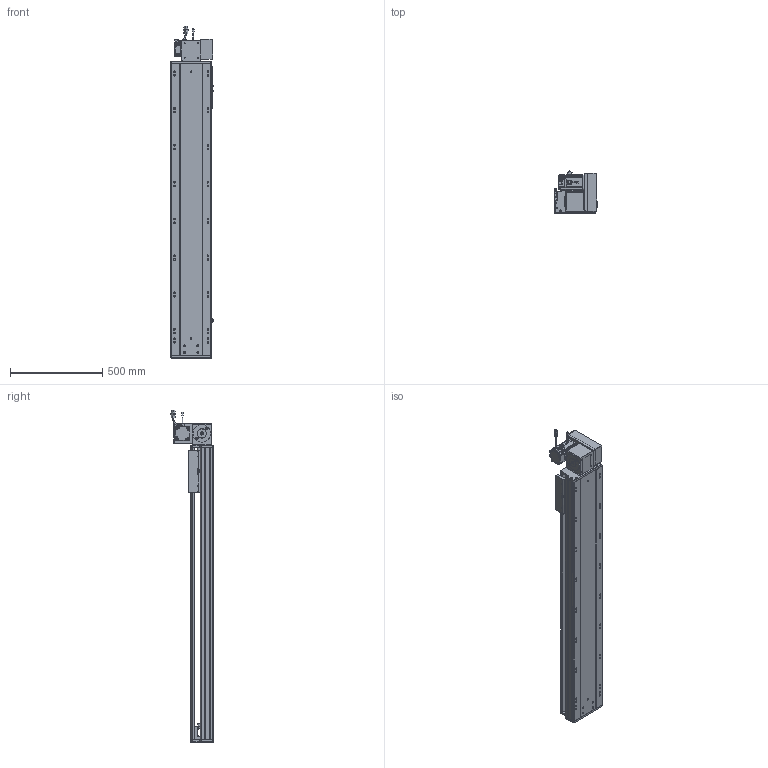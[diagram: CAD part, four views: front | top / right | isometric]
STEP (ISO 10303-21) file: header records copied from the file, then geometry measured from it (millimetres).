
FILE_DESCRIPTION (( 'STEP AP203' ), '1' );
FILE_NAME ('RY220-T-300-UR.SLDASM_1250.step', '2022-07-25T08:43:40', ( '' ), ( '' ), 'SwSTEP 2.0', 'SolidWorks 2016', '' );
FILE_SCHEMA (( 'CONFIG_CONTROL_DESIGN' ));
Length unit declared in the file: millimetre
Products named in the file (14): RY220圉猾敕々湍臏賑輸; RY220-T-蛌殏萇儂假蚾啣(750W); RY220-T菁釱-300_1250; RY220-T-300-奻裔啣_1250; 覜茼ん672; RY220-T-湍謫欶(鍼踢); RY220-同步轮副支撑座6304×2; RY220翋肮祭謫裔啣; 怢湛750W_ECMA-CX0807ES; RY220翋肮祭謫釱; 滅袉蝶18-15; 110A-T-肮祭謫釱傷裔; RY220-俋离672覜茼んえ; RY220-T-300-UR.SLDASM_1250
Assembly tree (18 placements, depth 2):
  RY220-T-300-UR.SLDASM_1250
    RY220-T菁釱-300_1250
    RY220翋肮祭謫釱
    覜茼ん672  x3
    RY220圉猾敕々湍臏賑輸
    RY220-T-300-奻裔啣_1250
    RY220-俋离672覜茼んえ
    滅袉蝶18-15  x3
    RY220翋肮祭謫裔啣  x2
    110A-T-肮祭謫釱傷裔
    怢湛750W_ECMA-CX0807ES
    RY220-T-湍謫欶(鍼踢)
    RY220-T-蛌殏萇儂假蚾啣(750W)
    RY220-同步轮副支撑座6304×2
Bounding box: 238.7 x 231.74 x 1803.27 mm (x, y, z)
Volume: 13874748.2 mm3; surface area: 4108395.4 mm2
Topology: 19 solids, 19 shells, 2684 faces, 7411 edges, 4694 vertices
Faces by surface type: cylinder 1268, plane 1069, cone 265, bspline 56, sphere 16, torus 10
Entity records: 89395 total; most frequent: CARTESIAN_POINT 25481, ORIENTED_EDGE 13274, DIRECTION 12580, EDGE_CURVE 6637, AXIS2_PLACEMENT_3D 4462, VERTEX_POINT 4318, VECTOR 3656, LINE 3656
